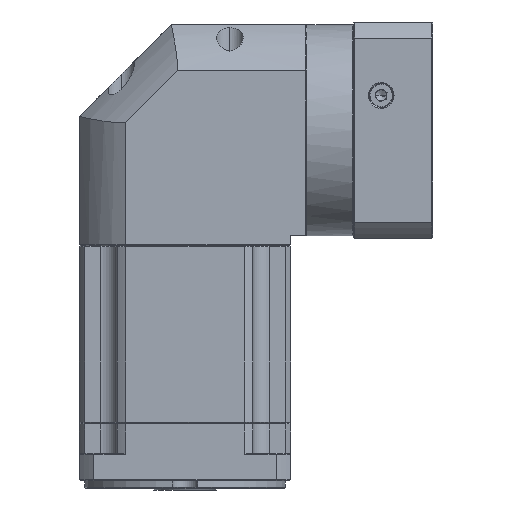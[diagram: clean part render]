
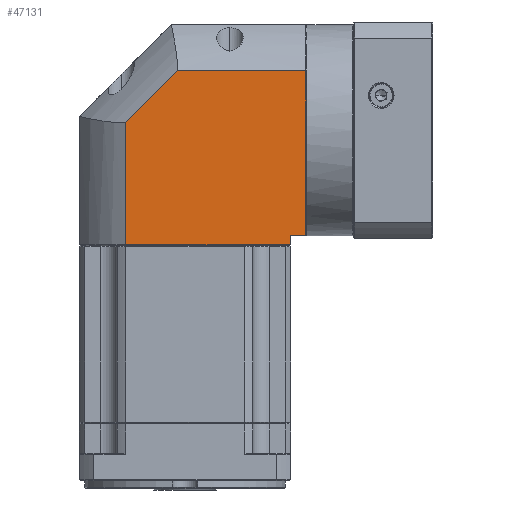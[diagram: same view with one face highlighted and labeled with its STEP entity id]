
A CAD part, front view. The second image highlights one B-rep face of the part: STEP entity #47131.
In plain terms, the highlighted planar face has unit normal (0, -1, 0).
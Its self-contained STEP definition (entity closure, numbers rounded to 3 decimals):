
#1046 = CARTESIAN_POINT ( 'NONE',  ( -17.02, 5.353, 45.963 ) ) ;
#1148 = VECTOR ( 'NONE', #91671, 1000. ) ;
#6199 = VERTEX_POINT ( 'NONE', #46345 ) ;
#6441 = EDGE_CURVE ( 'NONE', #37022, #70126, #28308, .T. ) ;
#8421 = EDGE_CURVE ( 'NONE', #70126, #10921, #11549, .T. ) ;
#10921 = VERTEX_POINT ( 'NONE', #121659 ) ;
#11123 = LINE ( 'NONE', #21710, #35063 ) ;
#11549 = LINE ( 'NONE', #108566, #49811 ) ;
#16186 = EDGE_LOOP ( 'NONE', ( #98093, #56093, #55567, #45523, #89197, #126214, #35293 ) ) ;
#17338 = VERTEX_POINT ( 'NONE', #52054 ) ;
#17385 = EDGE_CURVE ( 'NONE', #6199, #37022, #11123, .T. ) ;
#20334 = VERTEX_POINT ( 'NONE', #47063 ) ;
#21710 = CARTESIAN_POINT ( 'NONE',  ( -17.02, 5.353, -48.936 ) ) ;
#26212 = VECTOR ( 'NONE', #54207, 1000. ) ;
#28308 = LINE ( 'NONE', #102380, #1148 ) ;
#28783 = VECTOR ( 'NONE', #64369, 1000. ) ;
#35063 = VECTOR ( 'NONE', #103309, 1000. ) ;
#35293 = ORIENTED_EDGE ( 'NONE', *, *, #17385, .F. ) ;
#37022 = VERTEX_POINT ( 'NONE', #123085 ) ;
#38106 = EDGE_CURVE ( 'NONE', #20334, #6199, #42216, .T. ) ;
#42216 = LINE ( 'NONE', #102781, #26212 ) ;
#45523 = ORIENTED_EDGE ( 'NONE', *, *, #92364, .F. ) ;
#46345 = CARTESIAN_POINT ( 'NONE',  ( 97.98, 5.353, -48.936 ) ) ;
#47063 = CARTESIAN_POINT ( 'NONE',  ( 97.98, 5.353, -43.936 ) ) ;
#47131 = ADVANCED_FACE ( 'NONE', ( #111468 ), #60508, .F. ) ;
#49335 = DIRECTION ( 'NONE',  ( 0., 1., 0. ) ) ;
#49811 = VECTOR ( 'NONE', #98731, 1000. ) ;
#52054 = CARTESIAN_POINT ( 'NONE',  ( 106.38, 5.353, -43.936 ) ) ;
#54207 = DIRECTION ( 'NONE',  ( 0., 0., -1. ) ) ;
#55567 = ORIENTED_EDGE ( 'NONE', *, *, #100953, .F. ) ;
#56093 = ORIENTED_EDGE ( 'NONE', *, *, #83602, .F. ) ;
#60508 = PLANE ( 'NONE',  #96649 ) ;
#61173 = VECTOR ( 'NONE', #62912, 1000. ) ;
#62912 = DIRECTION ( 'NONE',  ( -1., 0., 0. ) ) ;
#64369 = DIRECTION ( 'NONE',  ( 1., 0., 0. ) ) ;
#68097 = VERTEX_POINT ( 'NONE', #125239 ) ;
#69869 = CARTESIAN_POINT ( 'NONE',  ( -17.02, 5.353, -55.436 ) ) ;
#70126 = VERTEX_POINT ( 'NONE', #104800 ) ;
#71242 = LINE ( 'NONE', #88784, #115788 ) ;
#83602 = EDGE_CURVE ( 'NONE', #17338, #20334, #85104, .T. ) ;
#85104 = LINE ( 'NONE', #122128, #61173 ) ;
#88784 = CARTESIAN_POINT ( 'NONE',  ( 106.38, 5.353, -55.436 ) ) ;
#89197 = ORIENTED_EDGE ( 'NONE', *, *, #8421, .F. ) ;
#91671 = DIRECTION ( 'NONE',  ( 0., 0., 1. ) ) ;
#92364 = EDGE_CURVE ( 'NONE', #10921, #68097, #122810, .T. ) ;
#96649 = AXIS2_PLACEMENT_3D ( 'NONE', #69869, #49335, #131712 ) ;
#98093 = ORIENTED_EDGE ( 'NONE', *, *, #38106, .F. ) ;
#98731 = DIRECTION ( 'NONE',  ( 0.707, 0., 0.707 ) ) ;
#99021 = DIRECTION ( 'NONE',  ( 0., 0., -1. ) ) ;
#100953 = EDGE_CURVE ( 'NONE', #68097, #17338, #71242, .T. ) ;
#102380 = CARTESIAN_POINT ( 'NONE',  ( 8.08, 5.353, -55.436 ) ) ;
#102781 = CARTESIAN_POINT ( 'NONE',  ( 97.98, 5.353, -55.436 ) ) ;
#103309 = DIRECTION ( 'NONE',  ( -1., 0., 0. ) ) ;
#104800 = CARTESIAN_POINT ( 'NONE',  ( 8.08, 5.353, 17.625 ) ) ;
#108566 = CARTESIAN_POINT ( 'NONE',  ( 8.08, 5.353, 17.625 ) ) ;
#111468 = FACE_OUTER_BOUND ( 'NONE', #16186, .T. ) ;
#115788 = VECTOR ( 'NONE', #99021, 1000. ) ;
#121659 = CARTESIAN_POINT ( 'NONE',  ( 36.419, 5.353, 45.963 ) ) ;
#122128 = CARTESIAN_POINT ( 'NONE',  ( -17.02, 5.353, -43.936 ) ) ;
#122810 = LINE ( 'NONE', #1046, #28783 ) ;
#123085 = CARTESIAN_POINT ( 'NONE',  ( 8.08, 5.353, -48.936 ) ) ;
#125239 = CARTESIAN_POINT ( 'NONE',  ( 106.38, 5.353, 45.963 ) ) ;
#126214 = ORIENTED_EDGE ( 'NONE', *, *, #6441, .F. ) ;
#131712 = DIRECTION ( 'NONE',  ( 1., 0., 0. ) ) ;
